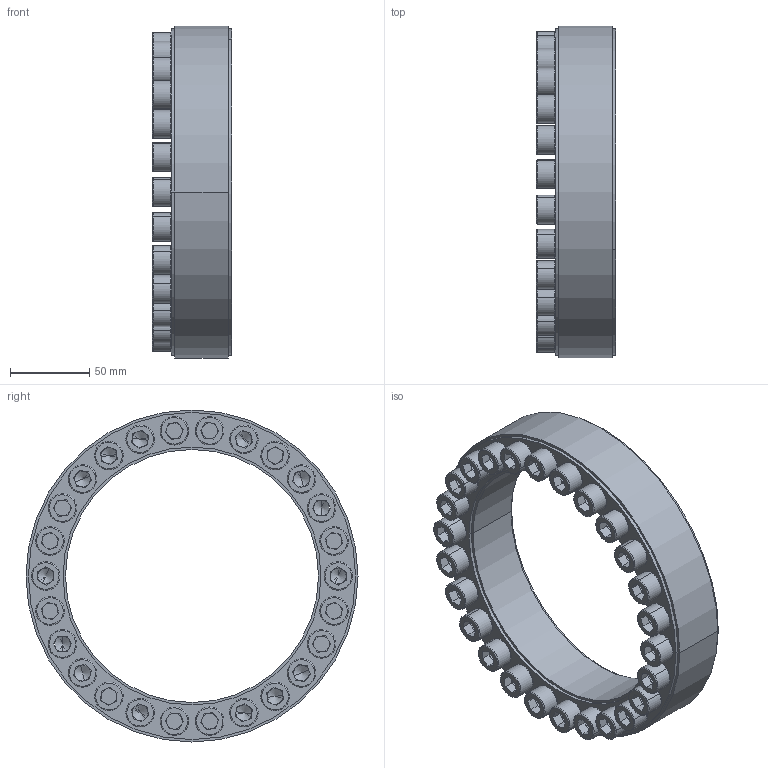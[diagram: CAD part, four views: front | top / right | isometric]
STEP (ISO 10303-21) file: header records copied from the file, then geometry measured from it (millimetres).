
FILE_DESCRIPTION (( 'STEP AP203' ), '1' );
FILE_NAME ('SAPL-D1-160-210.STEP', '2018-12-15T00:57:32', ( '' ), ( '' ), 'SwSTEP 2.0', 'SolidWorks 2015', '' );
FILE_SCHEMA (( 'CONFIG_CONTROL_DESIGN' ));
Length unit declared in the file: millimetre
Products named in the file (1): SAPL-D1-160-210
Bounding box: 50 x 209.98 x 209.98 mm (x, y, z)
Surface area: 137382.3 mm2 (no closed solid volume)
Topology: 0 solids, 56 shells, 642 faces, 1624 edges, 990 vertices
Faces by surface type: plane 334, cylinder 168, torus 104, cone 36
Entity records: 19008 total; most frequent: DIRECTION 3650, CARTESIAN_POINT 3229, ORIENTED_EDGE 2836, EDGE_CURVE 1596, AXIS2_PLACEMENT_3D 1411, VERTEX_POINT 990, LINE 828, VECTOR 828
